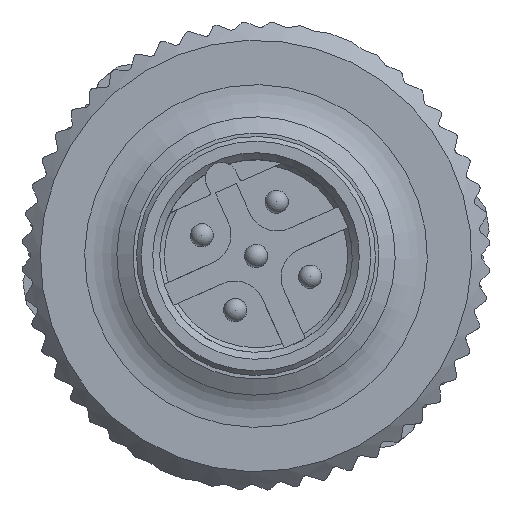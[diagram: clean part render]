
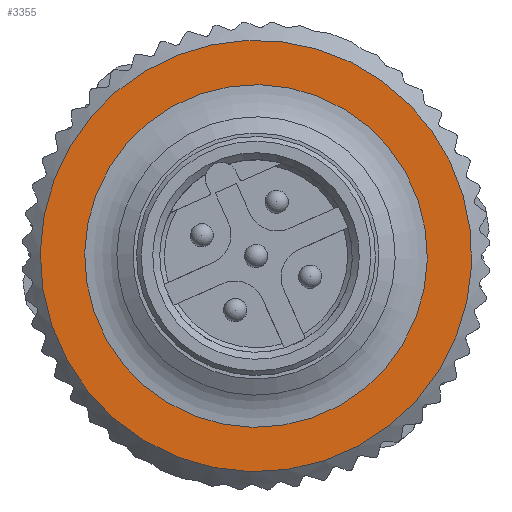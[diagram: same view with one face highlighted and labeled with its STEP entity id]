
A CAD part, left-side view. The second image highlights one B-rep face of the part: STEP entity #3355.
In plain terms, the highlighted planar face has unit normal (-1, 0, 0).
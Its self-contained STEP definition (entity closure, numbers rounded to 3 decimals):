
#3355=ADVANCED_FACE('',(#4508,#4509),#4150,.T.);
#4150=PLANE('',#13247);
#4508=FACE_BOUND('',#4606,.T.);
#4509=FACE_BOUND('',#4607,.T.);
#4606=EDGE_LOOP('',(#5996));
#4607=EDGE_LOOP('',(#5997));
#5996=ORIENTED_EDGE('',*,*,#11025,.T.);
#5997=ORIENTED_EDGE('',*,*,#10790,.T.);
#9617=VERTEX_POINT('',#20493);
#9834=VERTEX_POINT('',#20997);
#10790=EDGE_CURVE('',#9617,#9617,#12517,.T.);
#11025=EDGE_CURVE('',#9834,#9834,#12624,.T.);
#12517=CIRCLE('',#13120,9.3);
#12624=CIRCLE('',#13246,7.387);
#13120=AXIS2_PLACEMENT_3D('',#20492,#14651,#14652);
#13246=AXIS2_PLACEMENT_3D('',#20996,#15020,#15021);
#13247=AXIS2_PLACEMENT_3D('',#20998,#15022,#15023);
#14651=DIRECTION('',(-1.,0.,0.));
#14652=DIRECTION('',(0.,0.934,0.358));
#15020=DIRECTION('',(1.,0.,0.));
#15021=DIRECTION('',(0.,0.934,0.358));
#15022=DIRECTION('',(-1.,0.,0.));
#15023=DIRECTION('',(0.,0.934,0.358));
#20492=CARTESIAN_POINT('',(-8.,0.,0.));
#20493=CARTESIAN_POINT('',(-8.,8.682,3.333));
#20996=CARTESIAN_POINT('',(-8.,0.,0.));
#20997=CARTESIAN_POINT('',(-8.,6.896,2.647));
#20998=CARTESIAN_POINT('',(-8.,0.,0.));
